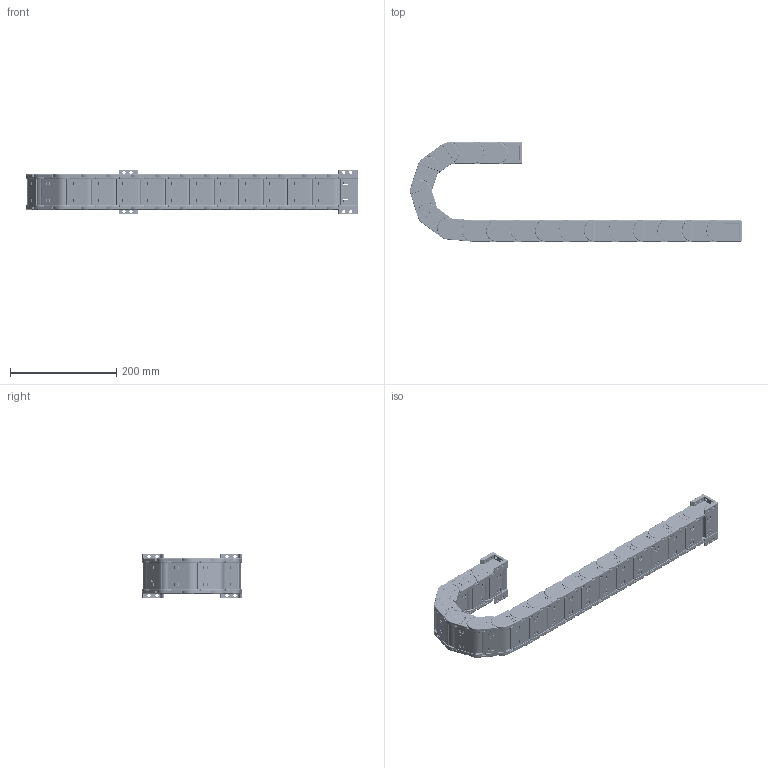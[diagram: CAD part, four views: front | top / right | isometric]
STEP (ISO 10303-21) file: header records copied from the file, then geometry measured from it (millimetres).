
FILE_DESCRIPTION (( 'STEP AP203' ), '1' );
FILE_NAME ('J25F.1.50S猾敕宒--俋耜羲.STEP', '2017-12-16T03:16:45', ( '' ), ( '' ), 'SwSTEP 2.0', 'SolidWorks 2016', '' );
FILE_SCHEMA (( 'CONFIG_CONTROL_DESIGN' ));
Length unit declared in the file: millimetre
Products named in the file (10): N25X57-增强3D-1 - 副本; 25-崝Ч源諉芛囀; N25X75-囀諉芛 - 萵掛; 25-崝Ч源諉芛俋; N25X75-俋諉芛 - 萵掛; 25-崝Ч翋极1; J25F.1.50S猾敕宒--俋耜羲; 25-崝Ч翋极2; N25-囀猾敕え; N25-俋猾敕え.2
Assembly tree (31 placements, depth 3):
  J25F.1.50S猾敕宒--俋耜羲
    N25X57-增强3D-1 - 副本  x17
      25-崝Ч翋极1
      25-崝Ч翋极2
      N25-囀猾敕え
      N25-俋猾敕え.2
    N25X75-囀諉芛 - 萵掛
      25-崝Ч源諉芛囀  x2
      N25-囀猾敕え  x2
    N25X75-俋諉芛 - 萵掛
      25-崝Ч源諉芛俋  x2
      N25-囀猾敕え  x2
Bounding box: 623.94 x 186.39 x 84 mm (x, y, z)
Volume: 837614.6 mm3; surface area: 599236.3 mm2
Topology: 76 solids, 76 shells, 19781 faces, 53747 edges, 34150 vertices
Faces by surface type: plane 8811, cylinder 5690, bspline 3842, torus 1360, sphere 78
Entity records: 49575 total; most frequent: CARTESIAN_POINT 17331, ORIENTED_EDGE 6766, DIRECTION 5911, EDGE_CURVE 3383, VERTEX_POINT 2166, AXIS2_PLACEMENT_3D 1973, LINE 1965, VECTOR 1965
